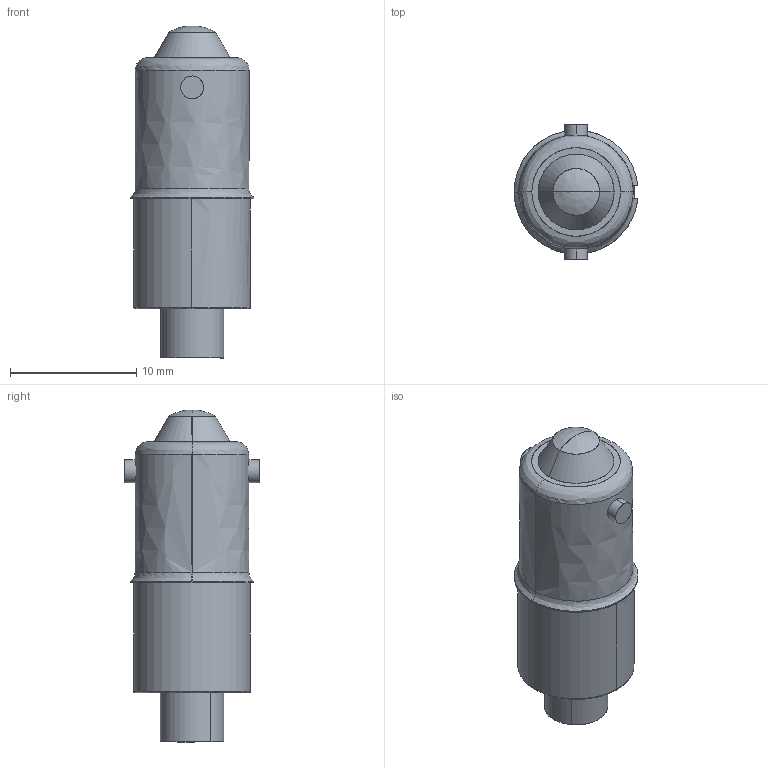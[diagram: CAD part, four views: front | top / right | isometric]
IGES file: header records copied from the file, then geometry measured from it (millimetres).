
Start section: SolidWorks IGES file using analytic representation for surfaces
Global section: file name: G:\Marl\DESIGN\Paul Robson\STEP-IGES FILES\215 Series\215 Series.IGS; native system: SolidWorks 2016; preprocessor: SolidWorks 2016; author: Paulr; date: 160803.102310; units: millimetre
Bounding box: 9.77 x 10.7 x 26.25 mm (x, y, z)
Surface area: 1823.7 mm2 (no closed solid volume)
Topology: 0 solids, 0 shells, 107 faces, 1394 edges, 1386 vertices
Faces by surface type: bspline 64, revolution 43
